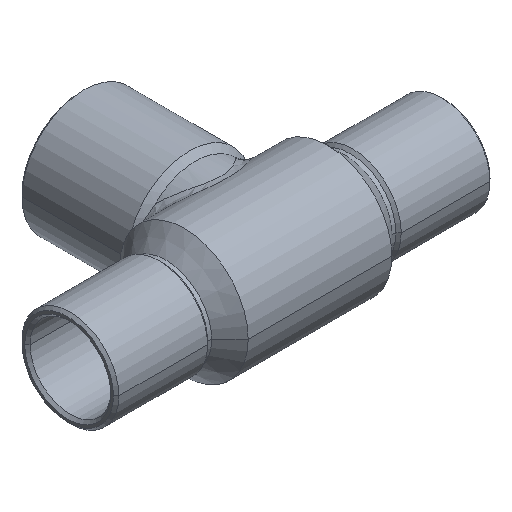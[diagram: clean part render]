
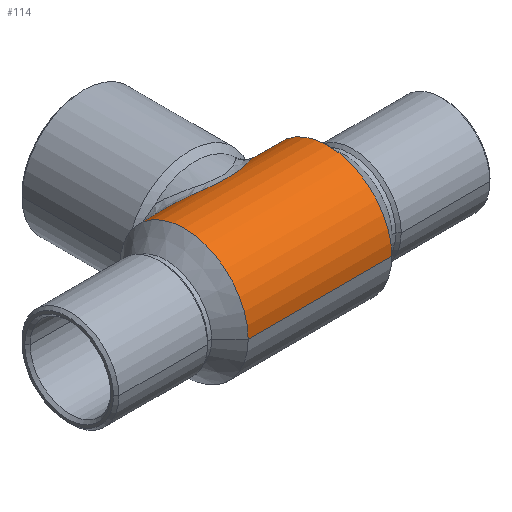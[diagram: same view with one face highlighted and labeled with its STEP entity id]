
A CAD part, isometric view. The second image highlights one B-rep face of the part: STEP entity #114.
In plain terms, the highlighted cylindrical face has radius 4.76 mm (diameter 9.52 mm), a partial arc.
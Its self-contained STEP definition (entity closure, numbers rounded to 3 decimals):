
#44=CARTESIAN_POINT('',(0.,0.,0.0));
#45=DIRECTION('',(1.0,0.,0.0));
#46=DIRECTION('',(0.0,1.0,0.0));
#47=AXIS2_PLACEMENT_3D('',#44,#45,#46);
#48=CYLINDRICAL_SURFACE('',#47,4.76);
#49=CARTESIAN_POINT('',(-5.34,4.76,0.));
#50=VERTEX_POINT('',#49);
#51=CARTESIAN_POINT('',(-5.16,4.76,0.));
#52=VERTEX_POINT('',#51);
#53=CARTESIAN_POINT('',(-5.34,4.76,0.));
#54=DIRECTION('',(1.0,0.0,0.0));
#55=VECTOR('',#54,0.18);
#56=LINE('',#53,#55);
#57=EDGE_CURVE('',#50,#52,#56,.T.);
#58=ORIENTED_EDGE('',*,*,#57,.F.);
#59=CARTESIAN_POINT('',(-5.34,-4.76,0.));
#60=VERTEX_POINT('',#59);
#61=CARTESIAN_POINT('',(-5.34,0.,0.0));
#62=DIRECTION('',(1.0,0.0,0.0));
#63=DIRECTION('',(0.0,1.0,0.0));
#64=AXIS2_PLACEMENT_3D('',#61,#62,#63);
#65=CIRCLE('',#64,4.76);
#66=EDGE_CURVE('',#50,#60,#65,.T.);
#67=ORIENTED_EDGE('',*,*,#66,.T.);
#68=CARTESIAN_POINT('',(5.34,-4.76,0.));
#69=VERTEX_POINT('',#68);
#70=CARTESIAN_POINT('',(5.34,-4.76,0.));
#71=DIRECTION('',(-1.0,0.0,0.0));
#72=VECTOR('',#71,10.68);
#73=LINE('',#70,#72);
#74=EDGE_CURVE('',#69,#60,#73,.T.);
#75=ORIENTED_EDGE('',*,*,#74,.F.);
#76=CARTESIAN_POINT('',(5.34,4.76,0.));
#77=VERTEX_POINT('',#76);
#78=CARTESIAN_POINT('',(5.34,0.,0.0));
#79=DIRECTION('',(-1.0,0.0,0.0));
#80=DIRECTION('',(0.0,1.0,0.0));
#81=AXIS2_PLACEMENT_3D('',#78,#79,#80);
#82=CIRCLE('',#81,4.76);
#83=EDGE_CURVE('',#69,#77,#82,.T.);
#84=ORIENTED_EDGE('',*,*,#83,.T.);
#85=CARTESIAN_POINT('',(5.16,4.76,0.));
#86=VERTEX_POINT('',#85);
#87=CARTESIAN_POINT('',(5.16,4.76,0.));
#88=DIRECTION('',(1.0,0.0,0.0));
#89=VECTOR('',#88,0.18);
#90=LINE('',#87,#89);
#91=EDGE_CURVE('',#86,#77,#90,.T.);
#92=ORIENTED_EDGE('',*,*,#91,.F.);
#93=CARTESIAN_POINT('',(-5.16,4.76,0.));
#94=CARTESIAN_POINT('',(-5.16,4.76,0.186));
#95=CARTESIAN_POINT('',(-5.145,4.749,0.378));
#96=CARTESIAN_POINT('',(-4.948,4.603,1.597));
#97=CARTESIAN_POINT('',(-4.33,4.139,2.49));
#98=CARTESIAN_POINT('',(-2.946,3.213,3.563));
#99=CARTESIAN_POINT('',(-2.273,2.77,3.89));
#100=CARTESIAN_POINT('',(-0.691,2.118,4.279));
#101=CARTESIAN_POINT('',(0.291,2.035,4.314));
#102=CARTESIAN_POINT('',(1.943,2.581,4.012));
#103=CARTESIAN_POINT('',(2.635,3.02,3.722));
#104=CARTESIAN_POINT('',(4.27,4.08,2.633));
#105=CARTESIAN_POINT('',(5.066,4.69,1.516));
#106=CARTESIAN_POINT('',(5.157,4.758,0.158));
#107=CARTESIAN_POINT('',(5.16,4.76,0.079));
#108=CARTESIAN_POINT('',(5.16,4.76,0.));
#109=B_SPLINE_CURVE_WITH_KNOTS('',3,(#93,#94,#95,#96,#97,#98,#99,#100,#101,#102,#103,#104,#105,#106,#107,#108),.UNSPECIFIED.,.F.,.U.,(4,2,2,2,2,2,2,4),(0.69,0.744,1.041,1.258,1.471,1.683,2.048,2.07),.UNSPECIFIED.);
#110=EDGE_CURVE('',#52,#86,#109,.T.);
#111=ORIENTED_EDGE('',*,*,#110,.F.);
#112=EDGE_LOOP('',(#58,#67,#75,#84,#92,#111));
#113=FACE_OUTER_BOUND('',#112,.T.);
#114=ADVANCED_FACE('',(#113),#48,.T.);
